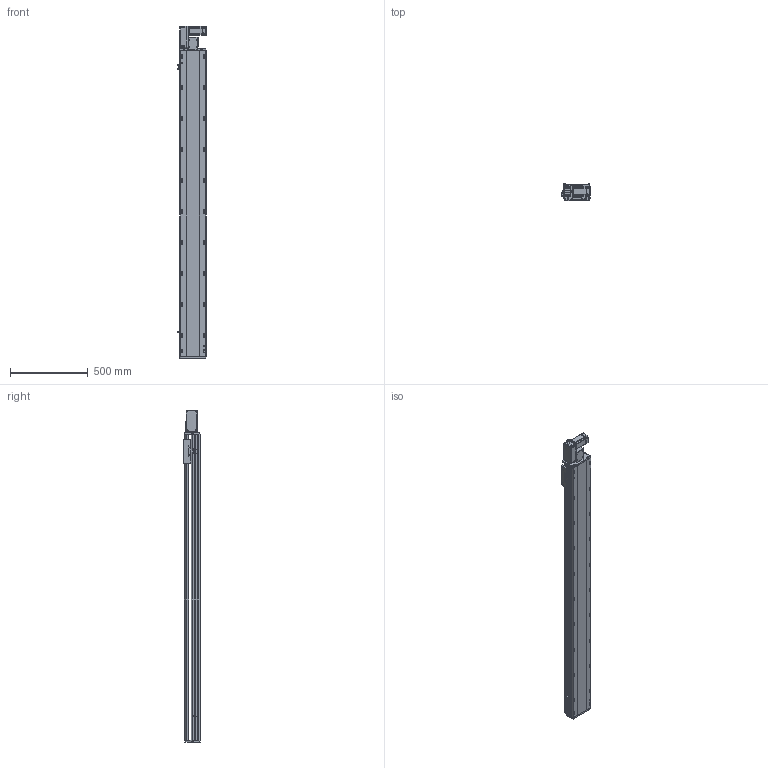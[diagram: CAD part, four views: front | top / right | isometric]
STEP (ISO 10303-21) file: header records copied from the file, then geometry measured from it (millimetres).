
FILE_DESCRIPTION (( 'STEP AP214' ), '1' );
FILE_NAME ('RTB17S-XX-1700-L-M40-C4.STEP', '2025-12-11T05:48:04', ( '' ), ( '' ), 'SwSTEP 2.0', 'SolidWorks 2018', '' );
FILE_SCHEMA (( 'AUTOMOTIVE_DESIGN' ));
Length unit declared in the file: millimetre
Products named in the file (14): RTB17S-XX-1700-L-M40-C4; RTH13-BL-012感应片外置^RTB17S-XX-XX-L-M40-C4（方程式）; RTB17S-L-皮带座装配-400W^RTB17S-XX-XX-L-M40-C4（方程式）; RTB17-R-011底座^RTB17S-XX-XX-L-M40-C4（方程式）; RTB14-L-005P--轴承塑胶压盖^RTB17S-L-皮带座装配-400W_RTB17S-XX-XX-L-M40-C4（方程式）; RTB14-L-017P^RTB17S-L-皮带座装配-400W_RTB17S-XX-XX-L-M40-C4（方程式）; RMP17S-L-014-T20--皮带座^RTB17S-L-皮带座装配-400W_RTB17S-XX-XX-L-M40-C4（方程式）; OMRON EE-SX672 传感器^RTB17S-XX-XX-L-M40-C4（方程式）; RTB17S-L-001侧面板^RTB17S-XX-XX-L-M40-C4（方程式）; RTB14-L-018P^RTB17S-L-皮带座装配-400W_RTB17S-XX-XX-L-M40-C4（方程式）; 400W伺服电机^RTB17S-XX-XX-L-M40-C4（方程式）; RTB17S-L-004丝杆螺母连接座^RTB17S-XX-XX-L-M40-C4（方程式）; RTB17S-L-007上盖^RTB17S-XX-XX-L-M40-C4（方程式）; RTB14-L-008-M20--电机板^RTB17S-L-皮带座装配-400W_RTB17S-XX-XX-L-M40-C4（方程式）
Assembly tree (16 placements, depth 3):
  RTB17S-XX-1700-L-M40-C4
    RTB17-R-011底座^RTB17S-XX-XX-L-M40-C4（方程式）
    RTB17S-L-007上盖^RTB17S-XX-XX-L-M40-C4（方程式）
    OMRON EE-SX672 传感器^RTB17S-XX-XX-L-M40-C4（方程式）  x3
    RTB17S-L-001侧面板^RTB17S-XX-XX-L-M40-C4（方程式）
    400W伺服电机^RTB17S-XX-XX-L-M40-C4（方程式）
    RTB17S-L-004丝杆螺母连接座^RTB17S-XX-XX-L-M40-C4（方程式）
    RTH13-BL-012感应片外置^RTB17S-XX-XX-L-M40-C4（方程式）
    RTB17S-L-皮带座装配-400W^RTB17S-XX-XX-L-M40-C4（方程式）
      RMP17S-L-014-T20--皮带座^RTB17S-L-皮带座装配-400W_RTB17S-XX-XX-L-M40-C4（方程式）
      RTB14-L-005P--轴承塑胶压盖^RTB17S-L-皮带座装配-400W_RTB17S-XX-XX-L-M40-C4（方程式）
      RTB14-L-008-M20--电机板^RTB17S-L-皮带座装配-400W_RTB17S-XX-XX-L-M40-C4（方程式）
      RTB14-L-017P^RTB17S-L-皮带座装配-400W_RTB17S-XX-XX-L-M40-C4（方程式）  x2
      RTB14-L-018P^RTB17S-L-皮带座装配-400W_RTB17S-XX-XX-L-M40-C4（方程式）
Bounding box: 186 x 108 x 2141 mm (x, y, z)
Volume: 18080178.4 mm3; surface area: 2121468.1 mm2
Topology: 15 solids, 15 shells, 2269 faces, 6303 edges, 4113 vertices
Faces by surface type: plane 1076, cylinder 745, bspline 301, cone 139, torus 8
Entity records: 65705 total; most frequent: CARTESIAN_POINT 18508, ORIENTED_EDGE 9450, DIRECTION 8756, EDGE_CURVE 4725, VERTEX_POINT 3101, AXIS2_PLACEMENT_3D 3031, VECTOR 2694, LINE 2694
